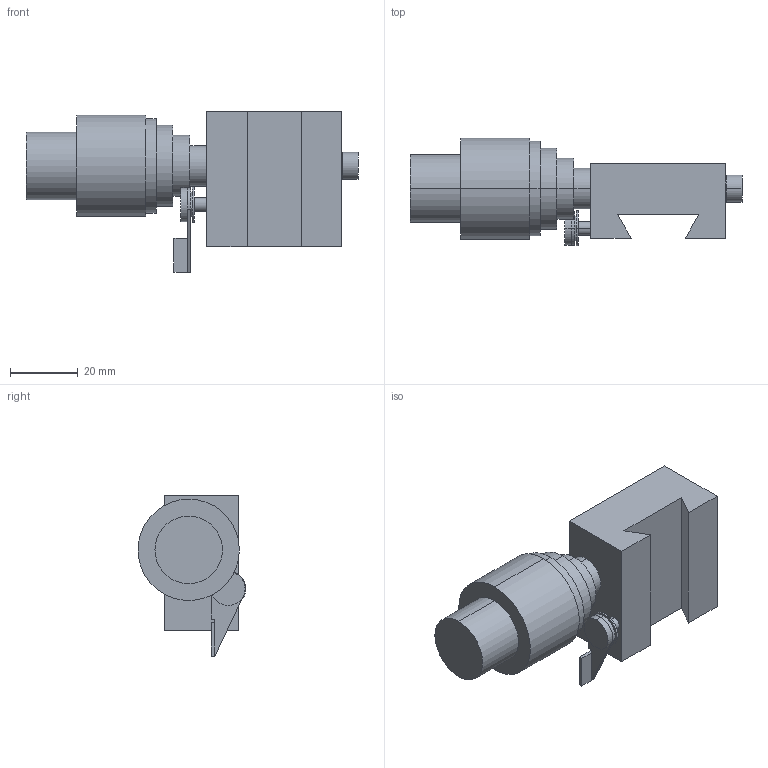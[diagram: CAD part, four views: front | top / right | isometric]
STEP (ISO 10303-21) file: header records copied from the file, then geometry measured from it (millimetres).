
FILE_DESCRIPTION (( 'STEP AP203' ), '1' );
FILE_NAME ('BL-414S.STEP', '2020-06-24T07:04:28', ( '' ), ( '' ), 'SwSTEP 2.0', 'SolidWorks 2016', '' );
FILE_SCHEMA (( 'CONFIG_CONTROL_DESIGN' ));
Length unit declared in the file: millimetre
Products named in the file (2): BL-414S
Assembly tree (1 placements, depth 2):
  BL-414S
    BL-414S
Bounding box: 98.3 x 31.95 x 47.5 mm (x, y, z)
Volume: 55095.5 mm3; surface area: 16263.5 mm2
Topology: 9 solids, 9 shells, 128 faces, 273 edges, 168 vertices
Faces by surface type: cylinder 58, plane 54, cone 16
Entity records: 3541 total; most frequent: DIRECTION 637, CARTESIAN_POINT 557, ORIENTED_EDGE 514, EDGE_CURVE 257, AXIS2_PLACEMENT_3D 248, VERTEX_POINT 168, EDGE_LOOP 151, VECTOR 141
